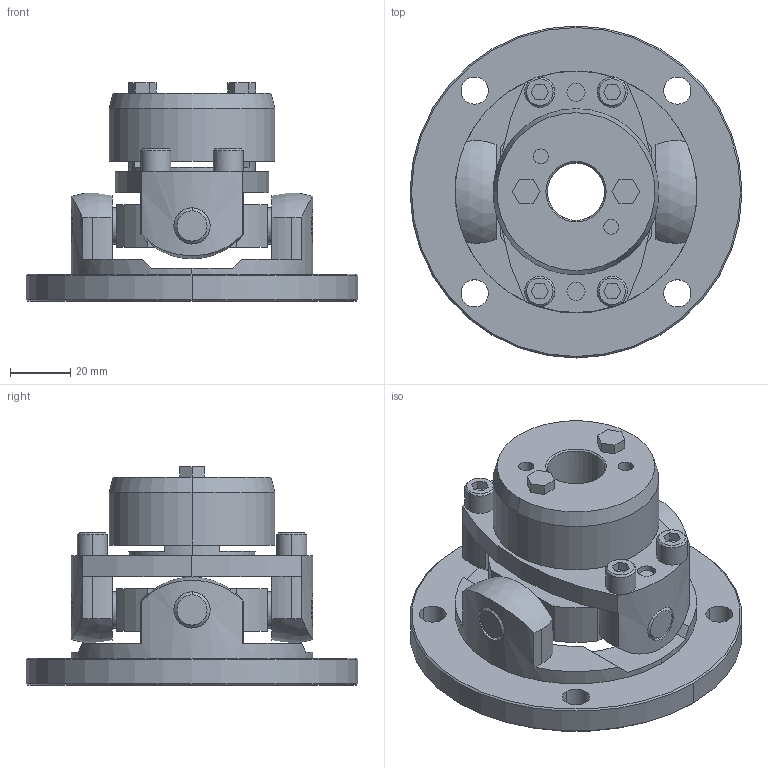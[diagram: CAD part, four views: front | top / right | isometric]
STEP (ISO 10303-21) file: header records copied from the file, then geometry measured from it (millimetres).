
FILE_DESCRIPTION((''),'2;1');
FILE_NAME('UCNF-80T7-19.stp','2011-09-17T16:24:14',(''),(''),'AutoCAD STEP 2000i','AutoCAD 2000i',', , ');
FILE_SCHEMA(('CONFIG_CONTROL_DESIGN'));
Length unit declared in the file: millimetre
Products named in the file (7): UCNF-80T7-19; 忣兜1; UCN80T7-T019; UCNF-8002; UCN80T7-T017-1; UCN80T7-T017; UCN80-SEN
Assembly tree (6 placements, depth 2):
  UCNF-80T7-19
    忣兜1
    UCN80T7-T019
    UCNF-8002
    UCN80T7-T017-1
    UCN80T7-T017
    UCN80-SEN
Bounding box: 110 x 110 x 72.5 mm (x, y, z)
Volume: 198505.7 mm3; surface area: 55185.8 mm2
Topology: 1 solids, 1 shells, 268 faces, 670 edges, 436 vertices
Faces by surface type: plane 122, cylinder 104, cone 38, sphere 4
Entity records: 8667 total; most frequent: CARTESIAN_POINT 1785, DIRECTION 1502, ORIENTED_EDGE 1340, EDGE_CURVE 670, AXIS2_PLACEMENT_3D 573, VERTEX_POINT 436, VECTOR 356, LINE 356
